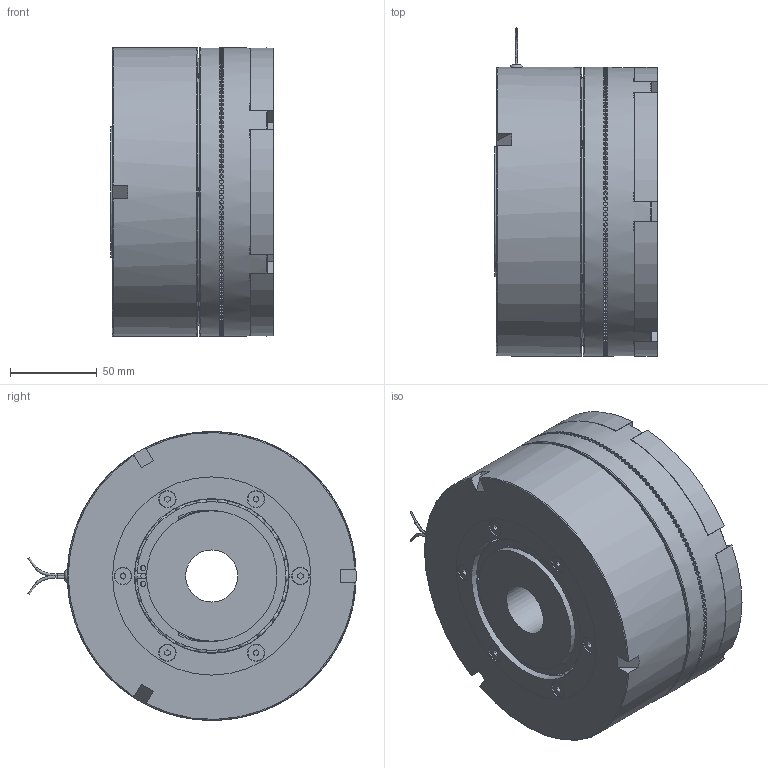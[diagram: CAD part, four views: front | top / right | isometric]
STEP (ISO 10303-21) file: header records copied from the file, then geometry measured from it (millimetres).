
FILE_DESCRIPTION(/* description */ (''),/* implementation_level */ '2;1');
FILE_NAME(/* name */ 'X:\INVENTOR\DISEGNI\07_Innesti_Elettmag_a_Dentini\07_05 ESB_Z\07_05_166_01 ESB166_Z\07_05_166_01 ESB166_Z-2021.stp',/* time_stamp */ '2021-06-11T10:49:18+02:00',/* author */ ('stefano'),/* organization */ (''),/* preprocessor_version */ 'ST-DEVELOPER v18.1',/* originating_system */ 'Autodesk Inventor 2021',/* authorisation */ '');
FILE_SCHEMA (('AUTOMOTIVE_DESIGN { 1 0 10303 214 3 1 1 }'));
Products named in the file (18): 07.05.166.01; C104.070516601; C612.AV 75; DIN 625 SKF - SKF 61815-2RS1; C120.070516601; C623.JV 95; C018.070116601; C103.070516601; C112.070516601; 45.06.166.01; DIN 6885 - A 5 x 5 x 12; C031.070516601; ISO 10642 - M5 x  16; C073_06_Gommino_Salvafilo_D=06; BOBINA ESB166; RESINA ESB166; R140.070516601; R048_070516601
Assembly tree (33 placements, depth 2):
  07.05.166.01
    C104.070516601
    C612.AV 75
    DIN 625 SKF - SKF 61815-2RS1  x3
    C120.070516601
    C623.JV 95
    C018.070116601
    C103.070516601
    C112.070516601
    45.06.166.01
    DIN 6885 - A 5 x 5 x 12  x6
    C031.070516601
    ISO 10642 - M5 x  16  x6
    C073_06_Gommino_Salvafilo_D=06
    BOBINA ESB166
    RESINA ESB166
    R140.070516601  x3
    R048_070516601  x3
Bounding box: 93.5 x 188.72 x 166 mm (x, y, z)
Volume: 1676942.2 mm3; surface area: 491856.5 mm2
Topology: 34 solids, 35 shells, 2260 faces, 6826 edges, 4536 vertices
Faces by surface type: plane 1710, cylinder 237, torus 154, sphere 66, cone 52, bspline 41
Full cylindrical faces by diameter (mm): 1.154 x2, 1.5 x1, 3 x4, 4 x3, 4.134 x6, 4.917 x3, 5 x6, 5.5 x6, 6 x6, 7 x47, 7.9 x3, 8.5 x3, 9.43 x6, 10 x6, 12 x3, 13.5 x3, 30 x1, 72 x1, 75 x5, 78.8 x1, 80 x2, 81 x1, 81.4 x6, 88.6 x6, 89 x1, 94.5 x1, 95 x5, 99 x1, 114 x2, 115 x1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
Entity records: 70854 total; most frequent: CARTESIAN_POINT 15612, DIRECTION 12666, ORIENTED_EDGE 11288, EDGE_CURVE 5644, AXIS2_PLACEMENT_3D 5326, VERTEX_POINT 3786, EDGE_LOOP 2151, ELLIPSE 2063
